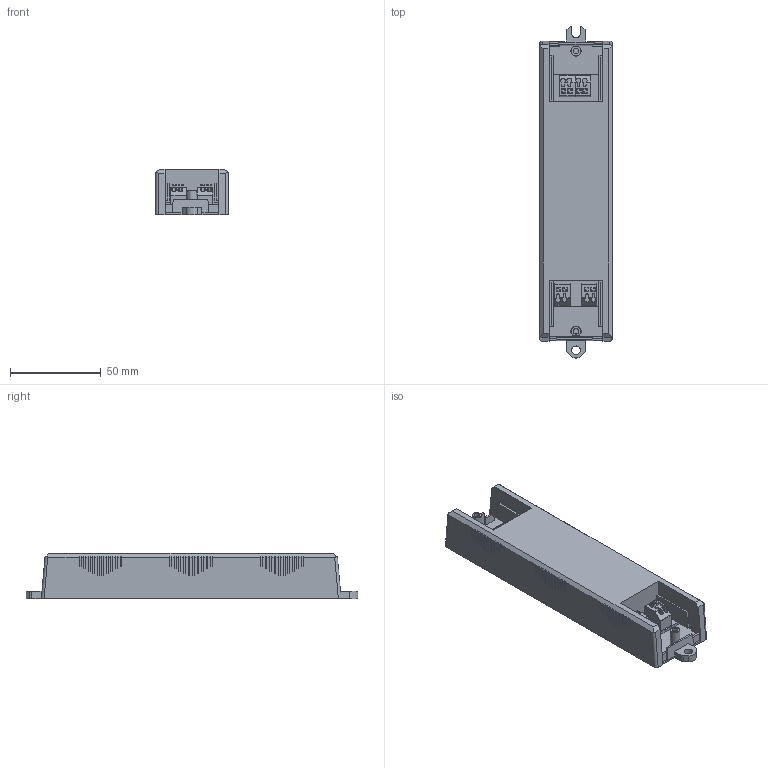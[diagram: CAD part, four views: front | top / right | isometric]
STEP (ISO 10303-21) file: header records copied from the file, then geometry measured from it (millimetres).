
FILE_DESCRIPTION (( 'STEP AP203' ), '1' );
FILE_NAME ('LL1x20-E-DA.STEP', '2014-11-10T09:10:49', ( '' ), ( '' ), 'SwSTEP 2.0', 'SolidWorks 2014', '' );
FILE_SCHEMA (( 'CONFIG_CONTROL_DESIGN' ));
Length unit declared in the file: millimetre
Products named in the file (6): LL1x20-E-DA; 75417; PCB_75417_; MirrorWAGO-250-204-2_2 napainen; WAGO-250-204-2_2 napainen; WAGO-250-204-2_4 napainen
Assembly tree (5 placements, depth 2):
  LL1x20-E-DA
    75417
    PCB_75417_
    MirrorWAGO-250-204-2_2 napainen
    WAGO-250-204-2_2 napainen
    WAGO-250-204-2_4 napainen
Bounding box: 40.14 x 183.08 x 24.9 mm (x, y, z)
Volume: 9178.2 mm3; surface area: 51566.1 mm2
Topology: 3 solids, 6 shells, 510 faces, 1694 edges, 1142 vertices
Faces by surface type: plane 414, cylinder 92, cone 4
Entity records: 18709 total; most frequent: CARTESIAN_POINT 3675, ORIENTED_EDGE 3034, DIRECTION 2740, EDGE_CURVE 1694, LINE 1494, VECTOR 1494, VERTEX_POINT 1142, AXIS2_PLACEMENT_3D 623
